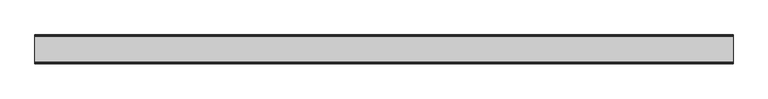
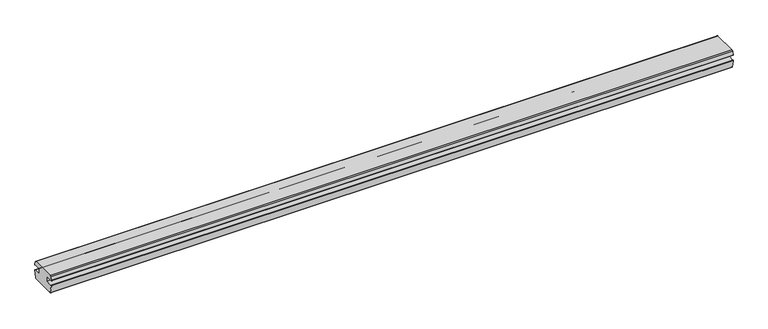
"""IFC4 building model written with IfcOpenShell, lengths in millimetres: proxy geometry, Weiku - Montante - Divisor fixo 02.2.01.041 : Weiku - Montante - Divisor fixo 02.2.01.041."""

from ifc_helpers import new_model, si_unit, point, frame, frame_2d, origin, place, context, project, spatial, polyline, circle_curve, trimmed, segment, composite_curve, outline, extrude, source, transform, mapped, element, save


def generic_models_fe21b708(model_context):
    return source(origin(), model_context, "Body", "SweptSolid", [
        extrude(outline(composite_curve([segment(polyline([(-33.0007245, 50.0), (33.0007245, 50.0)]), True, "CONTINUOUS"), segment(trimmed(circle_curve(frame_2d((33.0007245, 47.0)), 3.0), [point((33.0007245, 50.0))], [point((35.898502, 47.7764571))], False, "CARTESIAN"), True, "CONTINUOUS"), segment(polyline([(35.898502, 47.7764571), (38.4496907, 38.2552914)]), True, "CONTINUOUS"), segment(trimmed(circle_curve(frame_2d((37.8701352, 38.1)), 0.6), [point((38.4496907, 38.2552914))], [point((37.8701352, 37.5))], False, "CARTESIAN"), True, "CONTINUOUS"), segment(polyline([(37.8701352, 37.5), (17.5004577, 37.5), (17.5004577, 23.5), (37.5139562, 23.5)]), True, "CONTINUOUS"), segment(trimmed(circle_curve(frame_2d((37.5139562, 22.5)), 1.0), [point((37.5139562, 23.5))], [point((38.5006041, 22.3371317))], False, "CARTESIAN"), True, "CONTINUOUS"), segment(polyline([(38.5006041, 22.3371317), (34.9515483, 0.8371317)]), True, "CONTINUOUS"), segment(trimmed(circle_curve(frame_2d((33.9649005, 1.0)), 1.0), [point((34.9515483, 0.8371317))], [point((33.9649005, 0.0))], False, "CARTESIAN"), True, "CONTINUOUS"), segment(polyline([(33.9649005, 0.0), (-33.9649005, 0.0)]), True, "CONTINUOUS"), segment(trimmed(circle_curve(frame_2d((-33.9649005, 1.0)), 1.0), [point((-33.9649005, 0.0))], [point((-34.9515483, 0.8371317))], False, "CARTESIAN"), True, "CONTINUOUS"), segment(polyline([(-34.9515483, 0.8371317), (-38.5006041, 22.3371317)]), True, "CONTINUOUS"), segment(trimmed(circle_curve(frame_2d((-37.5139562, 22.5)), 1.0), [point((-38.5006041, 22.3371317))], [point((-37.5139562, 23.5))], False, "CARTESIAN"), True, "CONTINUOUS"), segment(polyline([(-37.5139562, 23.5), (-17.5004577, 23.5), (-17.5004577, 37.5), (-37.8701352, 37.5)]), True, "CONTINUOUS"), segment(trimmed(circle_curve(frame_2d((-37.8701352, 38.1)), 0.6), [point((-37.8701352, 37.5))], [point((-38.4496907, 38.2552914))], False, "CARTESIAN"), True, "CONTINUOUS"), segment(polyline([(-38.4496907, 38.2552914), (-35.898502, 47.7764571)]), True, "CONTINUOUS"), segment(trimmed(circle_curve(frame_2d((-33.0007245, 47.0)), 3.0), [point((-35.898502, 47.7764571))], [point((-33.0007245, 50.0))], False, "CARTESIAN"), True, "CONTINUOUS")], self_intersect=False)), frame((-931.5, 0.0, 0.0), z_axis=(1.0, 0.0, 0.0), x_axis=(0.0, 1.0, 0.0)), (0.0, 0.0, 1.0), 1863.0),
    ])


if __name__ == "__main__":
    model = new_model("IFC4")
    model_context = context("Model", 3, world=origin())
    ifc_project = project(units=[si_unit("LENGTHUNIT", "METRE", prefix="MILLI")], contexts=[model_context])
    site = spatial("IfcSite", under=ifc_project)
    building = spatial("IfcBuilding", under=site)
    placement = place(None, origin())
    generic_models_shape = generic_models_fe21b708(model_context)
    element("IfcBuildingElementProxy", 1, Name="Weiku - Montante - Divisor fixo 02.2.01.041 : Weiku - Montante - Divisor fixo 02.2.01.041", ObjectType="Weiku - Montante - Divisor fixo 02.2.01.041 : Weiku - Montante - Divisor fixo 02.2.01.041", at=placement, inside=building, context=model_context, shape_type="MappedRepresentation", body=[
        mapped(generic_models_shape, transform((0.0, 0.0, 0.0), x_axis=(1.0, 0.0, 0.0), y_axis=(0.0, 1.0, 0.0), z_axis=(0.0, 0.0, 1.0))),
    ])
    save(model, "model.ifc")
